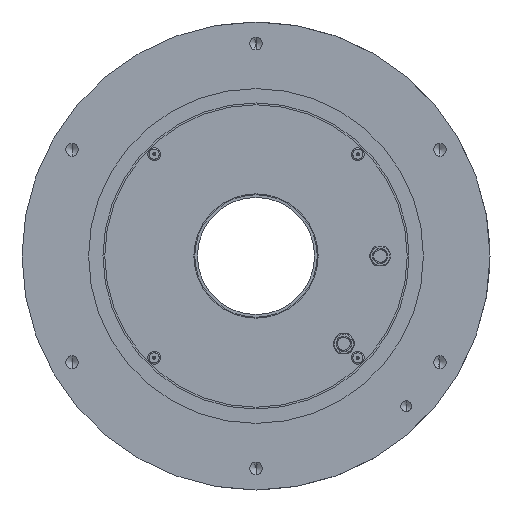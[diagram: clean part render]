
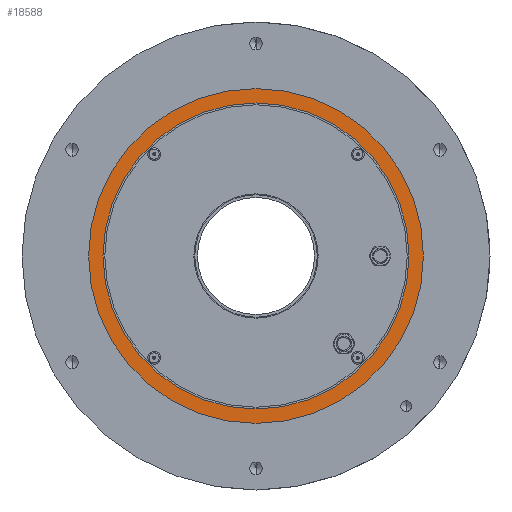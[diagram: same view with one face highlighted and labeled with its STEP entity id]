
A CAD part, front view. The second image highlights one B-rep face of the part: STEP entity #18588.
In plain terms, the highlighted planar face has unit normal (0, -1, 0).
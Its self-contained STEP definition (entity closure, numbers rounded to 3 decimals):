
#114 = CIRCLE ( 'NONE', #14011, 85. ) ;
#509 = AXIS2_PLACEMENT_3D ( 'NONE', #19880, #4354, #10648 ) ;
#653 = CARTESIAN_POINT ( 'NONE',  ( 85., 0., 0. ) ) ;
#1142 = AXIS2_PLACEMENT_3D ( 'NONE', #17310, #11421, #19246 ) ;
#2429 = CIRCLE ( 'NONE', #1142, 93. ) ;
#2705 = EDGE_CURVE ( 'NONE', #6614, #8249, #2429, .T. ) ;
#2767 = CARTESIAN_POINT ( 'NONE',  ( 0., 0., 0. ) ) ;
#3126 = CARTESIAN_POINT ( 'NONE',  ( 0., 0., 0. ) ) ;
#4354 = DIRECTION ( 'NONE',  ( 0., -1., 0. ) ) ;
#5030 = CIRCLE ( 'NONE', #509, 85. ) ;
#6080 = CARTESIAN_POINT ( 'NONE',  ( 0., 0., -93. ) ) ;
#6614 = VERTEX_POINT ( 'NONE', #9490 ) ;
#7400 = EDGE_CURVE ( 'NONE', #8249, #6614, #17565, .T. ) ;
#7444 = CARTESIAN_POINT ( 'NONE',  ( 0., 0., -85. ) ) ;
#8249 = VERTEX_POINT ( 'NONE', #6080 ) ;
#8565 = EDGE_LOOP ( 'NONE', ( #12840, #9689 ) ) ;
#8980 = DIRECTION ( 'NONE',  ( 0., 0., -1. ) ) ;
#9490 = CARTESIAN_POINT ( 'NONE',  ( 0., 0., 93. ) ) ;
#9678 = FACE_BOUND ( 'NONE', #16695, .T. ) ;
#9689 = ORIENTED_EDGE ( 'NONE', *, *, #2705, .T. ) ;
#9873 = EDGE_CURVE ( 'NONE', #12017, #13325, #5030, .T. ) ;
#10648 = DIRECTION ( 'NONE',  ( 0., 0., -1. ) ) ;
#11421 = DIRECTION ( 'NONE',  ( 0., -1., 0. ) ) ;
#12017 = VERTEX_POINT ( 'NONE', #7444 ) ;
#12609 = DIRECTION ( 'NONE',  ( 0., 0., -1. ) ) ;
#12840 = ORIENTED_EDGE ( 'NONE', *, *, #7400, .T. ) ;
#13325 = VERTEX_POINT ( 'NONE', #18395 ) ;
#13669 = DIRECTION ( 'NONE',  ( 0., -1., 0. ) ) ;
#13913 = DIRECTION ( 'NONE',  ( 0., -1., 0. ) ) ;
#14011 = AXIS2_PLACEMENT_3D ( 'NONE', #2767, #13913, #8980 ) ;
#14044 = EDGE_CURVE ( 'NONE', #13325, #12017, #114, .T. ) ;
#14534 = DIRECTION ( 'NONE',  ( 0., -1., 0. ) ) ;
#14652 = AXIS2_PLACEMENT_3D ( 'NONE', #3126, #13669, #18355 ) ;
#15132 = AXIS2_PLACEMENT_3D ( 'NONE', #653, #14534, #12609 ) ;
#16695 = EDGE_LOOP ( 'NONE', ( #19287, #19355 ) ) ;
#17310 = CARTESIAN_POINT ( 'NONE',  ( 0., 0., 0. ) ) ;
#17482 = PLANE ( 'NONE',  #15132 ) ;
#17565 = CIRCLE ( 'NONE', #14652, 93. ) ;
#17688 = FACE_OUTER_BOUND ( 'NONE', #8565, .T. ) ;
#18355 = DIRECTION ( 'NONE',  ( 0., 0., -1. ) ) ;
#18395 = CARTESIAN_POINT ( 'NONE',  ( 0., 0., 85. ) ) ;
#18588 = ADVANCED_FACE ( 'NONE', ( #17688, #9678 ), #17482, .T. ) ;
#19246 = DIRECTION ( 'NONE',  ( 0., 0., -1. ) ) ;
#19287 = ORIENTED_EDGE ( 'NONE', *, *, #9873, .F. ) ;
#19355 = ORIENTED_EDGE ( 'NONE', *, *, #14044, .F. ) ;
#19880 = CARTESIAN_POINT ( 'NONE',  ( 0., 0., 0. ) ) ;
